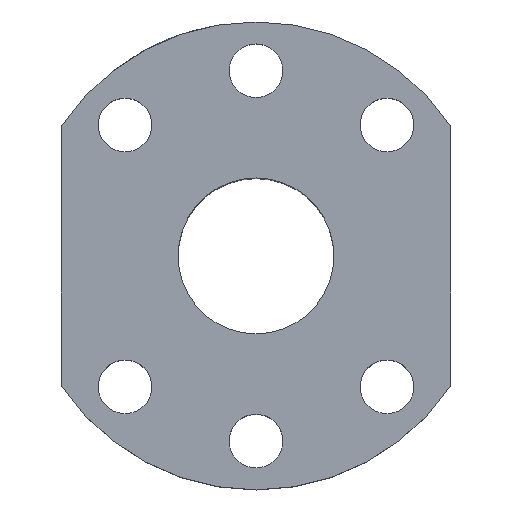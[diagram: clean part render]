
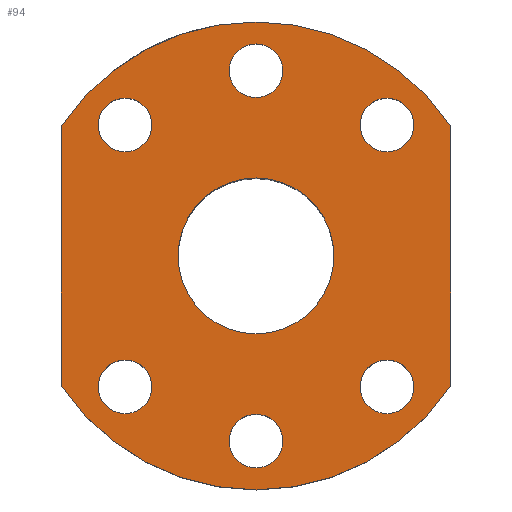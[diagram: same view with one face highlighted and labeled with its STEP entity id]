
A CAD part, top view. The second image highlights one B-rep face of the part: STEP entity #94.
In plain terms, the highlighted planar face has unit normal (0, 0, 1).
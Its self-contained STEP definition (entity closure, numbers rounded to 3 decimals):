
#94=ADVANCED_FACE('',(#204,#205,#206,#207,#208,#209,#210,#211),#212,.T.);
#204=FACE_BOUND('',#343,.T.);
#205=FACE_BOUND('',#344,.T.);
#206=FACE_BOUND('',#345,.T.);
#207=FACE_BOUND('',#346,.T.);
#208=FACE_BOUND('',#347,.T.);
#209=FACE_BOUND('',#348,.T.);
#210=FACE_BOUND('',#349,.T.);
#211=FACE_OUTER_BOUND('',#350,.T.);
#212=PLANE('',#351);
#343=EDGE_LOOP('',(#557,#558));
#344=EDGE_LOOP('',(#559,#560));
#345=EDGE_LOOP('',(#561,#562));
#346=EDGE_LOOP('',(#563,#564));
#347=EDGE_LOOP('',(#565,#566));
#348=EDGE_LOOP('',(#567,#568));
#349=EDGE_LOOP('',(#569,#570));
#350=EDGE_LOOP('',(#571,#572,#573,#574));
#351=AXIS2_PLACEMENT_3D('',#575,#576,#577);
#557=ORIENTED_EDGE('',*,*,#840,.T.);
#558=ORIENTED_EDGE('',*,*,#803,.T.);
#559=ORIENTED_EDGE('',*,*,#841,.T.);
#560=ORIENTED_EDGE('',*,*,#798,.T.);
#561=ORIENTED_EDGE('',*,*,#842,.T.);
#562=ORIENTED_EDGE('',*,*,#793,.T.);
#563=ORIENTED_EDGE('',*,*,#843,.T.);
#564=ORIENTED_EDGE('',*,*,#788,.T.);
#565=ORIENTED_EDGE('',*,*,#844,.T.);
#566=ORIENTED_EDGE('',*,*,#783,.T.);
#567=ORIENTED_EDGE('',*,*,#845,.T.);
#568=ORIENTED_EDGE('',*,*,#778,.T.);
#569=ORIENTED_EDGE('',*,*,#846,.T.);
#570=ORIENTED_EDGE('',*,*,#771,.T.);
#571=ORIENTED_EDGE('',*,*,#837,.T.);
#572=ORIENTED_EDGE('',*,*,#847,.T.);
#573=ORIENTED_EDGE('',*,*,#848,.T.);
#574=ORIENTED_EDGE('',*,*,#849,.T.);
#575=CARTESIAN_POINT('',(0.0,0.0,0.0));
#576=DIRECTION('',(0.,0.0,1.0));
#577=DIRECTION('',(1.0,0.0,0.));
#771=EDGE_CURVE('',#903,#907,#909,.T.);
#778=EDGE_CURVE('',#916,#920,#922,.T.);
#783=EDGE_CURVE('',#925,#929,#931,.T.);
#788=EDGE_CURVE('',#934,#938,#940,.T.);
#793=EDGE_CURVE('',#943,#947,#949,.T.);
#798=EDGE_CURVE('',#952,#956,#958,.T.);
#803=EDGE_CURVE('',#961,#965,#967,.T.);
#837=EDGE_CURVE('',#1020,#1018,#1021,.T.);
#840=EDGE_CURVE('',#965,#961,#1024,.T.);
#841=EDGE_CURVE('',#956,#952,#1025,.T.);
#842=EDGE_CURVE('',#947,#943,#1026,.T.);
#843=EDGE_CURVE('',#938,#934,#1027,.T.);
#844=EDGE_CURVE('',#929,#925,#1028,.T.);
#845=EDGE_CURVE('',#920,#916,#1029,.T.);
#846=EDGE_CURVE('',#907,#903,#1030,.T.);
#847=EDGE_CURVE('',#1018,#1031,#1032,.T.);
#848=EDGE_CURVE('',#1031,#1033,#1034,.T.);
#849=EDGE_CURVE('',#1033,#1020,#1035,.T.);
#903=VERTEX_POINT('',#1093);
#907=VERTEX_POINT('',#1098);
#909=CIRCLE('',#1101,8.0);
#916=VERTEX_POINT('',#1158);
#920=VERTEX_POINT('',#1163);
#922=CIRCLE('',#1166,2.75);
#925=VERTEX_POINT('',#1169);
#929=VERTEX_POINT('',#1174);
#931=CIRCLE('',#1177,2.75);
#934=VERTEX_POINT('',#1180);
#938=VERTEX_POINT('',#1185);
#940=CIRCLE('',#1188,2.75);
#943=VERTEX_POINT('',#1191);
#947=VERTEX_POINT('',#1196);
#949=CIRCLE('',#1199,2.75);
#952=VERTEX_POINT('',#1202);
#956=VERTEX_POINT('',#1207);
#958=CIRCLE('',#1210,2.75);
#961=VERTEX_POINT('',#1213);
#965=VERTEX_POINT('',#1218);
#967=CIRCLE('',#1221,2.75);
#1018=VERTEX_POINT('',#1320);
#1020=VERTEX_POINT('',#1323);
#1021=LINE('',#1324,#1325);
#1024=CIRCLE('',#1329,2.75);
#1025=CIRCLE('',#1330,2.75);
#1026=CIRCLE('',#1331,2.75);
#1027=CIRCLE('',#1332,2.75);
#1028=CIRCLE('',#1333,2.75);
#1029=CIRCLE('',#1334,2.75);
#1030=CIRCLE('',#1335,8.0);
#1031=VERTEX_POINT('',#1336);
#1032=CIRCLE('',#1337,24.0);
#1033=VERTEX_POINT('',#1338);
#1034=LINE('',#1339,#1340);
#1035=CIRCLE('',#1341,24.0);
#1093=CARTESIAN_POINT('',(-8.0,0.,0.));
#1098=CARTESIAN_POINT('',(8.0,0.,0.0));
#1101=AXIS2_PLACEMENT_3D('',#1435,#1436,#1437);
#1158=CARTESIAN_POINT('',(11.49,15.38,0.));
#1163=CARTESIAN_POINT('',(15.38,11.49,0.));
#1166=AXIS2_PLACEMENT_3D('',#1443,#1444,#1445);
#1169=CARTESIAN_POINT('',(-2.75,19.0,0.));
#1174=CARTESIAN_POINT('',(2.75,19.0,0.0));
#1177=AXIS2_PLACEMENT_3D('',#1451,#1452,#1453);
#1180=CARTESIAN_POINT('',(-15.38,11.49,0.));
#1185=CARTESIAN_POINT('',(-11.49,15.38,0.0));
#1188=AXIS2_PLACEMENT_3D('',#1459,#1460,#1461);
#1191=CARTESIAN_POINT('',(-11.49,-15.38,0.));
#1196=CARTESIAN_POINT('',(-15.38,-11.49,0.));
#1199=AXIS2_PLACEMENT_3D('',#1467,#1468,#1469);
#1202=CARTESIAN_POINT('',(2.75,-19.0,0.));
#1207=CARTESIAN_POINT('',(-2.75,-19.0,0.0));
#1210=AXIS2_PLACEMENT_3D('',#1475,#1476,#1477);
#1213=CARTESIAN_POINT('',(15.38,-11.49,0.));
#1218=CARTESIAN_POINT('',(11.49,-15.38,0.0));
#1221=AXIS2_PLACEMENT_3D('',#1483,#1484,#1485);
#1320=CARTESIAN_POINT('',(20.0,13.266,0.));
#1323=CARTESIAN_POINT('',(20.0,-13.266,0.));
#1324=CARTESIAN_POINT('',(20.0,0.0,0.));
#1325=VECTOR('',#1526,1.0);
#1329=AXIS2_PLACEMENT_3D('',#1528,#1529,#1530);
#1330=AXIS2_PLACEMENT_3D('',#1531,#1532,#1533);
#1331=AXIS2_PLACEMENT_3D('',#1534,#1535,#1536);
#1332=AXIS2_PLACEMENT_3D('',#1537,#1538,#1539);
#1333=AXIS2_PLACEMENT_3D('',#1540,#1541,#1542);
#1334=AXIS2_PLACEMENT_3D('',#1543,#1544,#1545);
#1335=AXIS2_PLACEMENT_3D('',#1546,#1547,#1548);
#1336=CARTESIAN_POINT('',(-20.0,13.266,0.));
#1337=AXIS2_PLACEMENT_3D('',#1549,#1550,#1551);
#1338=CARTESIAN_POINT('',(-20.0,-13.266,0.));
#1339=CARTESIAN_POINT('',(-20.0,0.0,0.));
#1340=VECTOR('',#1552,1.0);
#1341=AXIS2_PLACEMENT_3D('',#1553,#1554,#1555);
#1435=CARTESIAN_POINT('',(0.0,0.0,0.0));
#1436=DIRECTION('',(0.,0.0,-1.0));
#1437=DIRECTION('',(-1.0,0.0,0.));
#1443=CARTESIAN_POINT('',(13.435,13.435,0.0));
#1444=DIRECTION('',(0.,0.0,-1.0));
#1445=DIRECTION('',(-0.707,0.707,0.));
#1451=CARTESIAN_POINT('',(0.0,19.0,0.0));
#1452=DIRECTION('',(0.,0.0,-1.0));
#1453=DIRECTION('',(-1.0,0.0,0.));
#1459=CARTESIAN_POINT('',(-13.435,13.435,0.0));
#1460=DIRECTION('',(0.,0.0,-1.0));
#1461=DIRECTION('',(-0.707,-0.707,0.));
#1467=CARTESIAN_POINT('',(-13.435,-13.435,0.0));
#1468=DIRECTION('',(0.,0.0,-1.0));
#1469=DIRECTION('',(0.707,-0.707,0.));
#1475=CARTESIAN_POINT('',(0.,-19.0,0.0));
#1476=DIRECTION('',(0.,0.0,-1.0));
#1477=DIRECTION('',(1.0,0.,0.));
#1483=CARTESIAN_POINT('',(13.435,-13.435,0.0));
#1484=DIRECTION('',(0.,0.0,-1.0));
#1485=DIRECTION('',(0.707,0.707,0.));
#1526=DIRECTION('',(0.0,1.0,0.0));
#1528=CARTESIAN_POINT('',(13.435,-13.435,0.0));
#1529=DIRECTION('',(0.,0.0,-1.0));
#1530=DIRECTION('',(0.707,0.707,0.));
#1531=CARTESIAN_POINT('',(0.,-19.0,0.0));
#1532=DIRECTION('',(0.,0.0,-1.0));
#1533=DIRECTION('',(1.0,0.,0.));
#1534=CARTESIAN_POINT('',(-13.435,-13.435,0.0));
#1535=DIRECTION('',(0.,0.0,-1.0));
#1536=DIRECTION('',(0.707,-0.707,0.));
#1537=CARTESIAN_POINT('',(-13.435,13.435,0.0));
#1538=DIRECTION('',(0.,0.0,-1.0));
#1539=DIRECTION('',(-0.707,-0.707,0.));
#1540=CARTESIAN_POINT('',(0.0,19.0,0.0));
#1541=DIRECTION('',(0.,0.0,-1.0));
#1542=DIRECTION('',(-1.0,0.0,0.));
#1543=CARTESIAN_POINT('',(13.435,13.435,0.0));
#1544=DIRECTION('',(0.,0.0,-1.0));
#1545=DIRECTION('',(-0.707,0.707,0.));
#1546=CARTESIAN_POINT('',(0.0,0.0,0.0));
#1547=DIRECTION('',(0.,0.0,-1.0));
#1548=DIRECTION('',(-1.0,0.0,0.));
#1549=CARTESIAN_POINT('',(0.0,0.0,0.0));
#1550=DIRECTION('',(0.,0.0,1.0));
#1551=DIRECTION('',(-1.0,0.0,0.));
#1552=DIRECTION('',(0.0,-1.0,-0.0));
#1553=CARTESIAN_POINT('',(0.0,0.0,0.0));
#1554=DIRECTION('',(0.,0.0,1.0));
#1555=DIRECTION('',(-1.0,0.0,0.));
